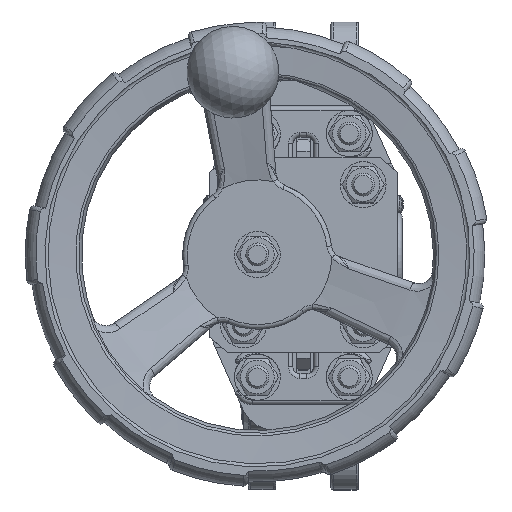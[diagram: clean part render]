
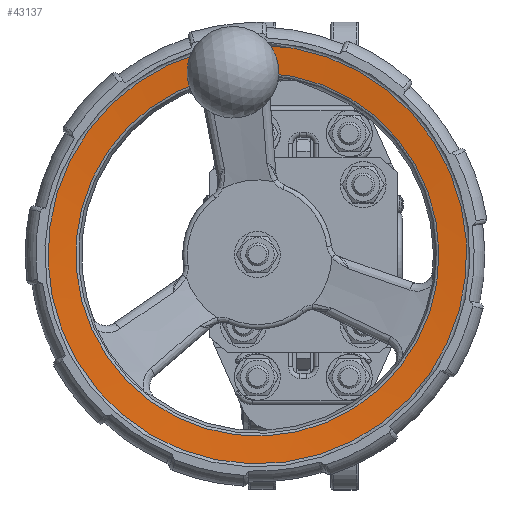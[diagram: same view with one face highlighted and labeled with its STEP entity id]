
A CAD part, top view. The second image highlights one B-rep face of the part: STEP entity #43137.
In plain terms, the highlighted conical face has half-angle 85 degrees and reference radius 92.5 mm.
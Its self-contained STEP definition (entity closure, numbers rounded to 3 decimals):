
#1755=B_SPLINE_CURVE_WITH_KNOTS('',3,(#81051,#81052,#81053,#81054),
 .UNSPECIFIED.,.F.,.F.,(4,4),(0.014,0.024),
 .UNSPECIFIED.);
#1756=B_SPLINE_CURVE_WITH_KNOTS('',3,(#81067,#81068,#81069,#81070),
 .UNSPECIFIED.,.F.,.F.,(4,4),(0.021,0.032),
 .UNSPECIFIED.);
#3507=CONICAL_SURFACE('',#47026,92.5,1.484);
#5940=FACE_OUTER_BOUND('',#8540,.T.);
#8540=EDGE_LOOP('',(#39284,#39285,#39286,#39287,#39288,#39289,#39290));
#10370=CIRCLE('',#46936,91.131);
#10372=CIRCLE('',#46938,91.131);
#10419=CIRCLE('',#47022,79.042);
#10420=CIRCLE('',#47024,12.595);
#10421=CIRCLE('',#47025,12.595);
#20259=VERTEX_POINT('',#81049);
#20260=VERTEX_POINT('',#81050);
#20265=VERTEX_POINT('',#81064);
#20266=VERTEX_POINT('',#81066);
#20424=VERTEX_POINT('',#97698);
#20481=VERTEX_POINT('',#111487);
#20482=VERTEX_POINT('',#111496);
#26441=EDGE_CURVE('',#20259,#20260,#1755,.T.);
#26447=EDGE_CURVE('',#20266,#20265,#1756,.T.);
#26648=EDGE_CURVE('',#20265,#20424,#10370,.T.);
#26650=EDGE_CURVE('',#20424,#20259,#10372,.T.);
#26788=EDGE_CURVE('',#20481,#20482,#10419,.T.);
#26789=EDGE_CURVE('',#20482,#20266,#10420,.T.);
#26790=EDGE_CURVE('',#20260,#20481,#10421,.T.);
#39284=ORIENTED_EDGE('',*,*,#26447,.T.);
#39285=ORIENTED_EDGE('',*,*,#26648,.T.);
#39286=ORIENTED_EDGE('',*,*,#26650,.T.);
#39287=ORIENTED_EDGE('',*,*,#26441,.T.);
#39288=ORIENTED_EDGE('',*,*,#26790,.T.);
#39289=ORIENTED_EDGE('',*,*,#26788,.T.);
#39290=ORIENTED_EDGE('',*,*,#26789,.T.);
#43137=ADVANCED_FACE('',(#5940),#3507,.F.);
#46936=AXIS2_PLACEMENT_3D('',#97700,#57481,#57482);
#46938=AXIS2_PLACEMENT_3D('',#97702,#57485,#57486);
#47022=AXIS2_PLACEMENT_3D('',#111505,#57662,#57663);
#47024=AXIS2_PLACEMENT_3D('',#111507,#57666,#57667);
#47025=AXIS2_PLACEMENT_3D('',#111508,#57668,#57669);
#47026=AXIS2_PLACEMENT_3D('',#111509,#57670,#57671);
#57481=DIRECTION('center_axis',(0.,0.,
1.));
#57482=DIRECTION('ref_axis',(0.133,-0.991,0.));
#57485=DIRECTION('center_axis',(0.,0.,
1.));
#57486=DIRECTION('ref_axis',(0.133,-0.991,0.));
#57662=DIRECTION('center_axis',(0.,0.,
-1.));
#57663=DIRECTION('ref_axis',(-0.133,0.991,0.));
#57666=DIRECTION('center_axis',(-0.025,0.084,
-0.996));
#57667=DIRECTION('ref_axis',(-0.991,-0.134,0.013));
#57668=DIRECTION('center_axis',(0.002,0.087,
-0.996));
#57669=DIRECTION('ref_axis',(1.,-0.021,0.));
#57670=DIRECTION('center_axis',(0.,0.,
1.));
#57671=DIRECTION('ref_axis',(0.133,-0.991,0.));
#81049=CARTESIAN_POINT('',(-19.63,91.13,379.124));
#81050=CARTESIAN_POINT('',(-18.262,80.953,378.235));
#81051=CARTESIAN_POINT('Ctrl Pts',(-19.63,91.13,379.124));
#81052=CARTESIAN_POINT('Ctrl Pts',(-19.174,87.738,378.828));
#81053=CARTESIAN_POINT('Ctrl Pts',(-18.718,84.345,378.531));
#81054=CARTESIAN_POINT('Ctrl Pts',(-18.262,80.953,378.235));
#81064=CARTESIAN_POINT('',(-44.407,87.802,379.124));
#81066=CARTESIAN_POINT('',(-43.04,77.625,378.235));
#81067=CARTESIAN_POINT('Ctrl Pts',(-43.04,77.625,378.235));
#81068=CARTESIAN_POINT('Ctrl Pts',(-43.496,81.017,378.531));
#81069=CARTESIAN_POINT('Ctrl Pts',(-43.951,84.409,378.828));
#81070=CARTESIAN_POINT('Ctrl Pts',(-44.407,87.802,379.124));
#97698=CARTESIAN_POINT('',(-7.867,-90.319,379.124));
#97700=CARTESIAN_POINT('Origin',(-20.,0.,
379.124));
#97702=CARTESIAN_POINT('Origin',(-20.,0.,
379.124));
#111487=CARTESIAN_POINT('',(-18.154,79.02,378.067));
#111496=CARTESIAN_POINT('',(-42.634,75.732,378.067));
#111505=CARTESIAN_POINT('Origin',(-20.,0.,
378.067));
#111507=CARTESIAN_POINT('Origin',(-30.56,79.316,378.067));
#111508=CARTESIAN_POINT('Origin',(-30.746,79.291,378.067));
#111509=CARTESIAN_POINT('Origin',(-20.,0.,
379.244));
